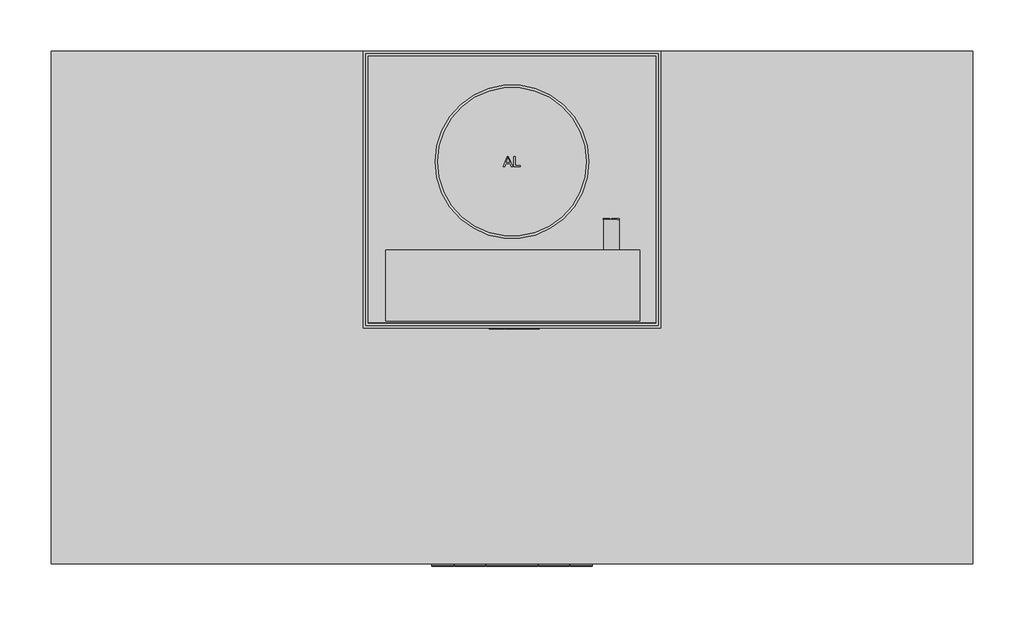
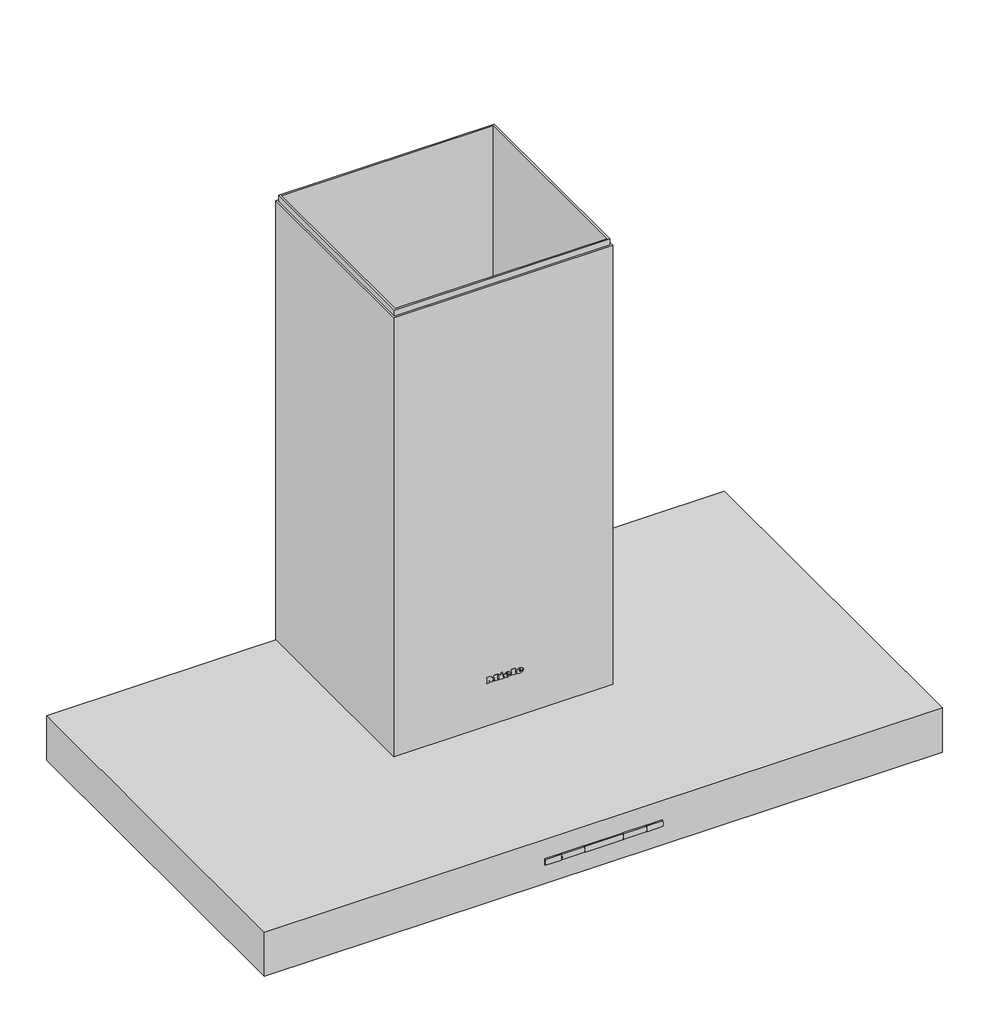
# Not in any storey: 1 proxy.
"""IFC4 building model written with IfcOpenShell, lengths in millimetres."""

from ifc_helpers import new_model, si_unit, origin, place, context, project, spatial, transform, mapped, element, save
from components import specialty_equipment_3ea5a5a3

model = new_model("IFC4")

# Units and contexts
model_context = context("Model", 3, world=origin())
ifc_project = project(units=[si_unit("LENGTHUNIT", "METRE", prefix="MILLI")], contexts=[model_context])

# Site, building
site = spatial("IfcSite", under=ifc_project)
building = spatial("IfcBuilding", under=site)

# Proxy
placement = place(None, origin())
specialty_equipment_shape = specialty_equipment_3ea5a5a3(model_context)
element("IfcBuildingElementProxy", 1, Name="10749580_D_DA4298W_EDST : 28429850_D_10749580_DA4298W_EDST", ObjectType="10749580_D_DA4298W_EDST : 28429850_D_10749580_DA4298W_EDST", at=placement, inside=building, context=model_context, shape_type="MappedRepresentation", body=[
    mapped(specialty_equipment_shape, transform((0.0, 0.0, 0.0), x_axis=(1.0, 0.0, 0.0), y_axis=(0.0, 1.0, 0.0), z_axis=(0.0, 0.0, 1.0))),
])

save(model, "model.ifc")
